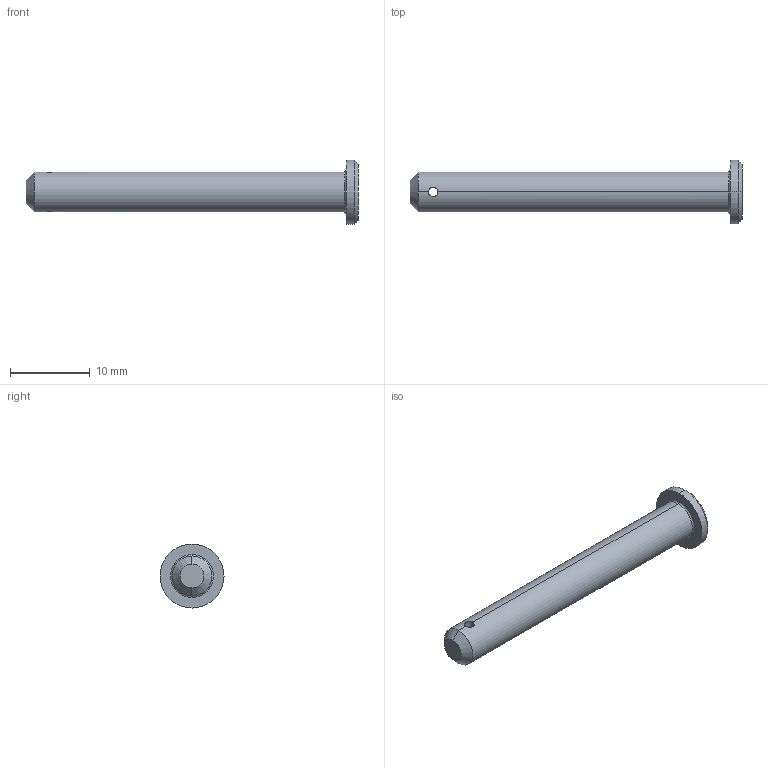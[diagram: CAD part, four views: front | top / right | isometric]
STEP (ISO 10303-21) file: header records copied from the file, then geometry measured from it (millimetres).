
FILE_DESCRIPTION (( 'STEP AP203' ), '1' );
FILE_NAME ('Wiberger-sms2360_5x40.step', '2012-10-09T08:58:10', ( 'Magnus' ), ( 'Wiberger' ), 'SwSTEP 2.0', 'SolidWorks 2011', '' );
FILE_SCHEMA (( 'CONFIG_CONTROL_DESIGN' ));
Length unit declared in the file: millimetre
Products named in the file (1): Wiberger-sms2360_5x40
Bounding box: 41.5 x 8 x 8 mm (x, y, z)
Volume: 845.5 mm3; surface area: 763.3 mm2
Topology: 1 solids, 1 shells, 15 faces, 32 edges, 18 vertices
Faces by surface type: cylinder 6, cone 4, plane 3, torus 2
Entity records: 511 total; most frequent: CARTESIAN_POINT 102, DIRECTION 76, ORIENTED_EDGE 64, AXIS2_PLACEMENT_3D 32, EDGE_CURVE 32, VERTEX_POINT 18, CIRCLE 16, EDGE_LOOP 16
